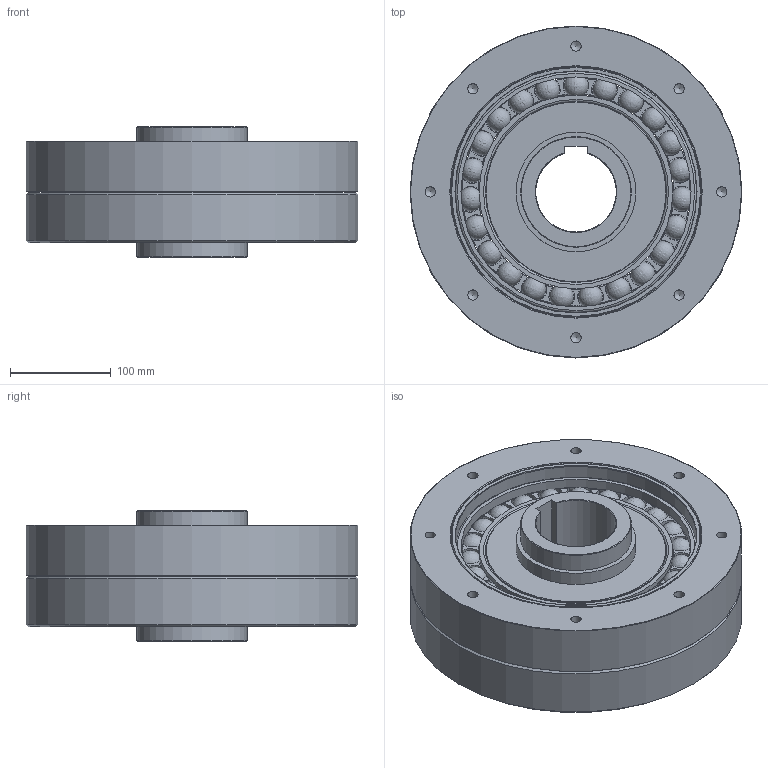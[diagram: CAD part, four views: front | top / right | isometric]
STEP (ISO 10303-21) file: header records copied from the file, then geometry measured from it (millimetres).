
FILE_DESCRIPTION (( 'STEP AP203' ), '1' );
FILE_NAME ('FDS-100-XXX-CJ.STEP', '2024-11-15T01:30:39', ( '微软用户' ), ( '微软中国' ), 'SwSTEP 2.0', 'SolidWorks 2016', '' );
FILE_SCHEMA (( 'CONFIG_CONTROL_DESIGN' ));
Length unit declared in the file: millimetre
Products named in the file (1): FDS-100-XXX-CJ
Bounding box: 330 x 330 x 130 mm (x, y, z)
Volume: 6497903.9 mm3; surface area: 1007597.5 mm2
Topology: 58 solids, 58 shells, 351 faces, 936 edges, 611 vertices
Faces by surface type: cylinder 140, plane 117, sphere 46, cone 34, torus 14
Full cylindrical faces by diameter (mm): 10.2 x16, 110 x2, 119 x2, 180 x3, 192.68 x4, 195 x2, 226 x2, 228.76 x4, 240 x3, 249.5 x3, 330 x2
Entity records: 9343 total; most frequent: DIRECTION 1858, CARTESIAN_POINT 1530, ORIENTED_EDGE 1356, AXIS2_PLACEMENT_3D 832, EDGE_CURVE 678, VERTEX_POINT 488, CIRCLE 480, EDGE_LOOP 416
